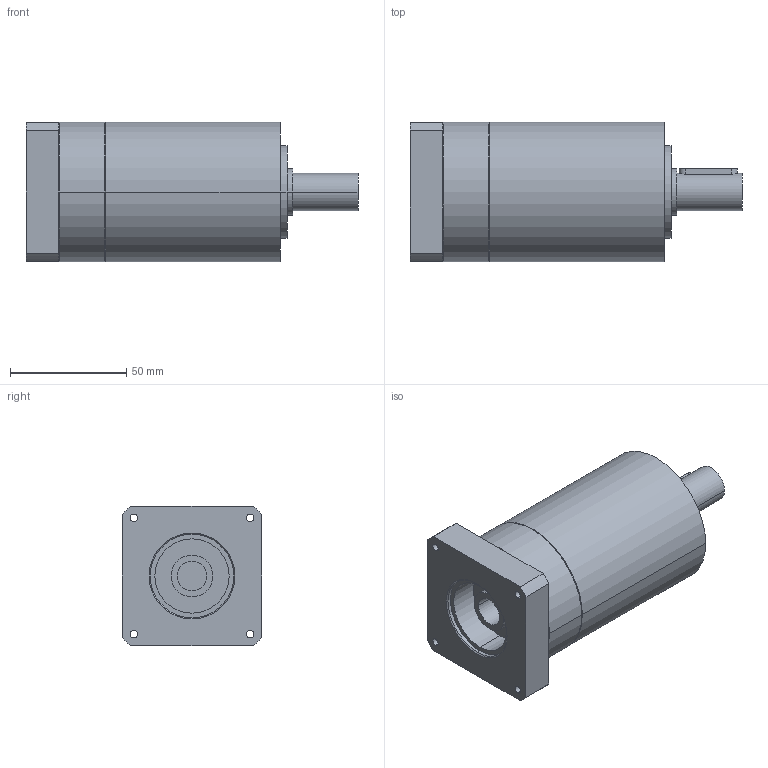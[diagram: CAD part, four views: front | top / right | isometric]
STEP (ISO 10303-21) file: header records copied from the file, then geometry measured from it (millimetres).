
FILE_DESCRIPTION(('CoCreate Modeling STEP Export'),'2;1');
FILE_NAME('GPR75_ig-9-12-16-20-24-30-36_16_B14_12.7_P35.stp','2014-08-25T16:02:07',(''),(''),'CoCreate Modeling STEP processor for AP214 (Solid Model)','CoCreate Modeling 16.00C 25-Feb-2009 (C) Parametric Technology GmbH','');
FILE_SCHEMA(('AUTOMOTIVE_DESIGN { 1 0 10303 214 1 1 1 1 }'));
Length unit declared in the file: millimetre
Products named in the file (2): GPR75_ig-9-12-16-20-24-30-36_16_B14_12.7_P35
Assembly tree (1 placements, depth 2):
  GPR75_ig-9-12-16-20-24-30-36_16_B14_12.7_P35
    GPR75_ig-9-12-16-20-24-30-36_16_B14_12.7_P35
Bounding box: 142.9 x 60 x 60 mm (x, y, z)
Volume: 315115.6 mm3; surface area: 34825.5 mm2
Topology: 1 solids, 1 shells, 72 faces, 186 edges, 128 vertices
Faces by surface type: cylinder 42, plane 22, cone 8
Entity records: 1949 total; most frequent: ORIENTED_EDGE 368, CARTESIAN_POINT 360, DIRECTION 268, EDGE_CURVE 184, VERTEX_POINT 128, AXIS2_PLACEMENT_3D 100, EDGE_LOOP 94, FACE_OUTER_BOUND 72
